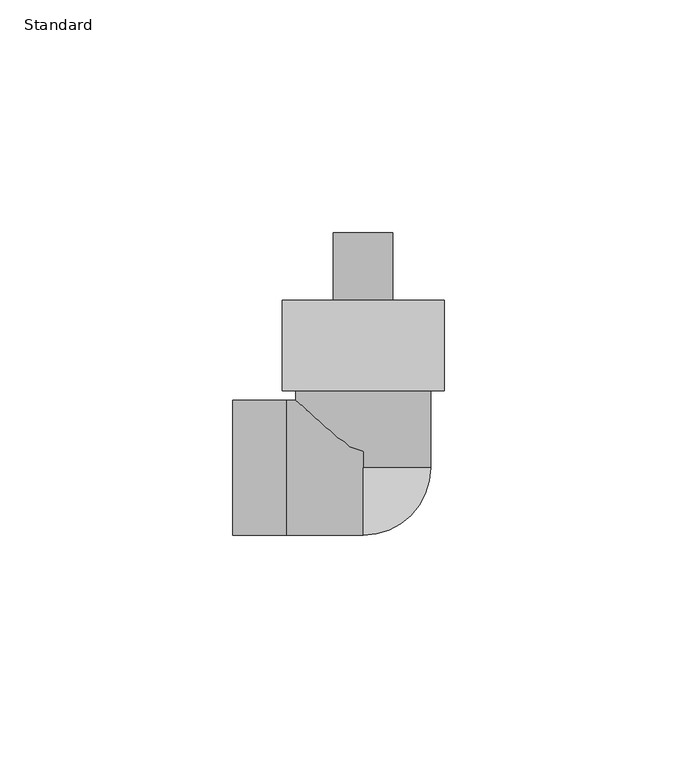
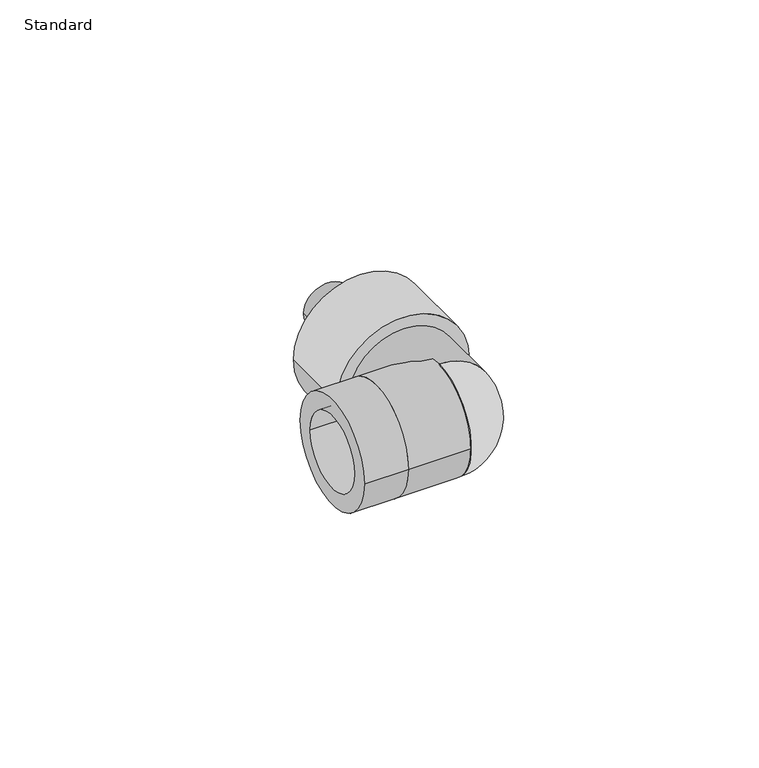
"""IFC4 building model written with IfcOpenShell, lengths in millimetres: pipe fitting geometry, EGB_VASEN_ PPR_Codo rosca macho WXR201 : Standard."""

from ifc_helpers import new_model, si_unit, point, frame, origin, origin_2d, place, context, project, spatial, circle_curve, ellipse_curve, trimmed, segment, composite_curve, outline, extrude, source, transform, mapped, element, save
from ifc_brep_helpers import plane_surface, revolved_surface, advanced_brep


def standard_43dc1a49(model_context):
    return source(origin(), model_context, "Body", "SolidModel", [
        extrude(outline(composite_curve([segment(trimmed(circle_curve(origin_2d(), 6.35), [point((0.0, 6.35))], [point((0.0, -6.35))], False, "CARTESIAN"), True, "CONTINUOUS"), segment(trimmed(circle_curve(origin_2d(), 6.35), [point((0.0, -6.35))], [point((0.0, 6.35))], False, "CARTESIAN"), True, "CONTINUOUS")], self_intersect=False)), frame((0.0, 16.5, 0.0), z_axis=(0.0, 1.0, 0.0), x_axis=(0.0, 0.0, 1.0)), (0.0, 0.0, 1.0), 34.0),
        advanced_brep(
        [(0.0, 0.0, -14.5), (0.0, 0.0, 14.5)],
        [
            (0, 1, circle_curve(frame((0.0, 0.0, 0.0), z_axis=(-1.0, 0.0, 0.0), x_axis=(0.0, 1.0, 0.0)), 14.5)),
            (1, 0),
            (1, 0, circle_curve(frame((0.0, 0.0, 0.0), z_axis=(0.0, 1.0, 0.0), x_axis=(-1.0, 0.0, 0.0)), 14.5)),
        ],
        [
            plane_surface(frame((0.0, 0.0, 24.5431585), z_axis=(-1.0, 0.0, 0.0), x_axis=(0.0, -1.0, 0.0))),
            plane_surface(frame((0.0, 0.0, 24.5431585), z_axis=(0.0, 1.0, 0.0), x_axis=(1.0, 0.0, 0.0))),
            revolved_surface(trimmed(ellipse_curve(frame((0.0, 0.0, 0.0), z_axis=(1.0, 0.0, 0.0), x_axis=(0.0, 1.0, 0.0)), 14.5, 14.5), [point((0.0, 0.0, 14.5))], [point((0.0, 0.0, -14.5))], True, "CARTESIAN"), (0.0, 0.0, 24.5431585), (0.0, 0.0, -1.0)),
        ],
        [
            (0, [[1, 2]]),
            (1, [[3, -2]]),
            (2, [[-1, -3]]),
        ],
    ),
        extrude(outline(composite_curve([segment(trimmed(circle_curve(origin_2d(), 14.5), [point((-14.5, 0.0))], [point((14.5, 0.0))], False, "CARTESIAN"), True, "CONTINUOUS"), segment(trimmed(circle_curve(origin_2d(), 14.5), [point((14.5, 0.0))], [point((-14.5, 0.0))], False, "CARTESIAN"), True, "CONTINUOUS")], self_intersect=False), holes=[composite_curve([segment(trimmed(circle_curve(origin_2d(), 10.0), [point((-10.0, 0.0))], [point((10.0, 0.0))], True, "CARTESIAN"), True, "CONTINUOUS"), segment(trimmed(circle_curve(origin_2d(), 10.0), [point((10.0, 0.0))], [point((-10.0, 0.0))], True, "CARTESIAN"), True, "CONTINUOUS")], self_intersect=False)]), frame((-28.0, 0.0, 0.0), z_axis=(1.0, 0.0, 0.0), x_axis=(0.0, 1.0, 0.0)), (0.0, 0.0, 1.0), 11.5),
        extrude(outline(composite_curve([segment(trimmed(circle_curve(origin_2d(), 17.4), [point((0.0, 17.4))], [point((0.0, -17.4))], False, "CARTESIAN"), True, "CONTINUOUS"), segment(trimmed(circle_curve(origin_2d(), 17.4), [point((0.0, -17.4))], [point((0.0, 17.4))], False, "CARTESIAN"), True, "CONTINUOUS")], self_intersect=False), holes=[composite_curve([segment(trimmed(circle_curve(origin_2d(), 6.35), [point((0.0, 6.35))], [point((0.0, -6.35))], True, "CARTESIAN"), True, "CONTINUOUS"), segment(trimmed(circle_curve(origin_2d(), 6.35), [point((0.0, -6.35))], [point((0.0, 6.35))], True, "CARTESIAN"), True, "CONTINUOUS")], self_intersect=False)]), frame((0.0, 16.5, 0.0), z_axis=(0.0, 1.0, 0.0), x_axis=(0.0, 0.0, 1.0)), (0.0, 0.0, 1.0), 19.5),
        extrude(outline(composite_curve([segment(trimmed(circle_curve(origin_2d(), 14.5), [point((-14.5, 0.0))], [point((14.5, 0.0))], False, "CARTESIAN"), True, "CONTINUOUS"), segment(trimmed(circle_curve(origin_2d(), 14.5), [point((14.5, 0.0))], [point((-14.5, 0.0))], False, "CARTESIAN"), True, "CONTINUOUS")], self_intersect=False)), frame((-16.5, 0.0, 0.0), z_axis=(1.0, 0.0, 0.0), x_axis=(0.0, 1.0, 0.0)), (0.0, 0.0, 1.0), 16.5),
        extrude(outline(composite_curve([segment(trimmed(circle_curve(origin_2d(), 14.5), [point((0.0, -14.5))], [point((0.0, 14.5))], False, "CARTESIAN"), True, "CONTINUOUS"), segment(trimmed(circle_curve(origin_2d(), 14.5), [point((0.0, 14.5))], [point((0.0, -14.5))], False, "CARTESIAN"), True, "CONTINUOUS")], self_intersect=False)), frame((0.0, 0.0, 0.0), z_axis=(0.0, 1.0, 0.0), x_axis=(0.0, 0.0, 1.0)), (0.0, 0.0, 1.0), 16.5),
    ])


if __name__ == "__main__":
    model = new_model("IFC4")
    model_context = context("Model", 3, world=origin())
    ifc_project = project(units=[si_unit("LENGTHUNIT", "METRE", prefix="MILLI")], contexts=[model_context])
    site = spatial("IfcSite", under=ifc_project)
    building = spatial("IfcBuilding", under=site)
    placement = place(None, origin())
    standard_shape = standard_43dc1a49(model_context)
    element("IfcPipeFitting", 1, ObjectType="EGB_VASEN_ PPR_Codo rosca macho WXR201 : Standard", at=placement, inside=building, context=model_context, shape_type="MappedRepresentation", body=[
        mapped(standard_shape, transform((0.0, 0.0, 0.0), x_axis=(1.0, 0.0, 0.0), y_axis=(0.0, 1.0, 0.0), z_axis=(0.0, 0.0, 1.0))),
    ])
    save(model, "model.ifc")
